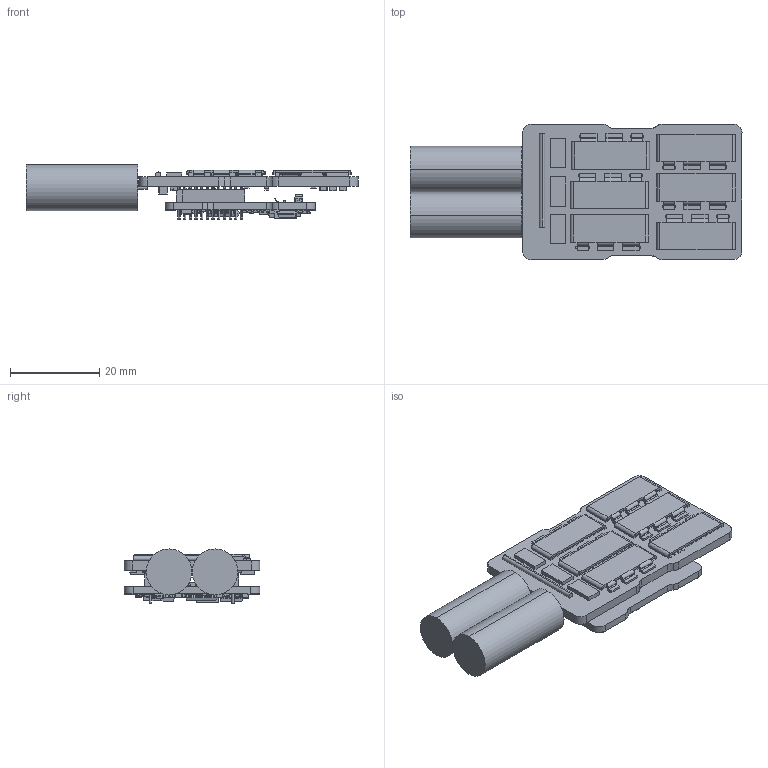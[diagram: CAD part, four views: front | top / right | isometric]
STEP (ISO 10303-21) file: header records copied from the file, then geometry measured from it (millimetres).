
FILE_DESCRIPTION (( 'STEP AP203' ), '1' );
FILE_NAME ('RD FOC 60A V2 (PCB 315 and 317) _Bare Stack PCB without Enclosure.STEP', '2026-07-02T04:35:13', ( '' ), ( '' ), 'RDSTEP 2.0', 'Reflex Drive', '' );
FILE_SCHEMA (( 'CONFIG_CONTROL_DESIGN' ));
Products named in the file (1): RD FOC 60A V2 (PCB 315 and 317) _Bare Stack PCB without Enclosure
Bounding box: 74.36 x 30.36 x 12.11 mm (x, y, z)
Volume: 10105.1 mm3; surface area: 10729.6 mm2
Topology: 1 solids, 18 shells, 4718 faces, 12837 edges, 7878 vertices
Faces by surface type: plane 2843, cylinder 1285, sphere 526, torus 50, bspline 14
Entity records: 152713 total; most frequent: CARTESIAN_POINT 42883, ORIENTED_EDGE 25270, DIRECTION 19050, EDGE_CURVE 12635, VERTEX_POINT 7878, AXIS2_PLACEMENT_3D 6569, LINE 5912, VECTOR 5912
